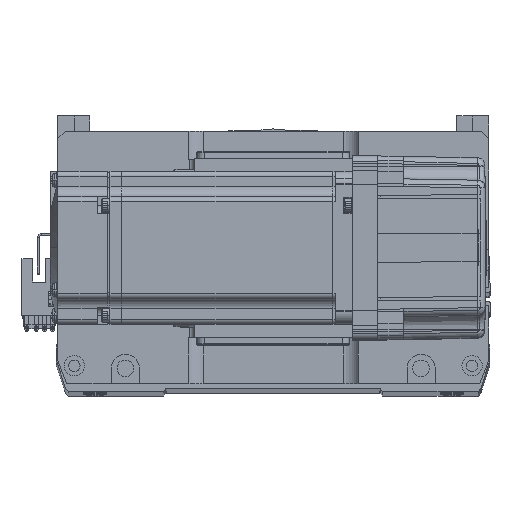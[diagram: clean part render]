
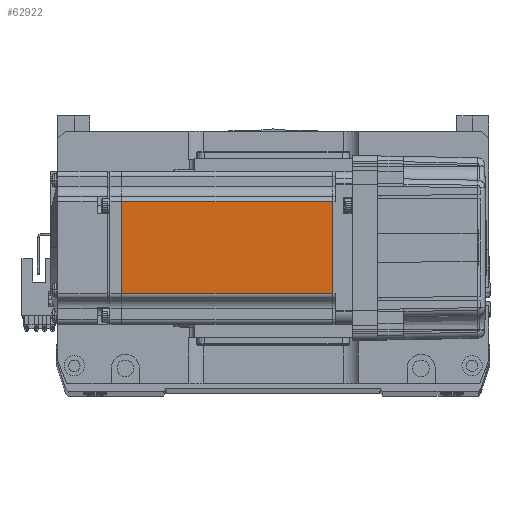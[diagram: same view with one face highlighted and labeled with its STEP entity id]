
A CAD part, top view. The second image highlights one B-rep face of the part: STEP entity #62922.
In plain terms, the highlighted planar face has unit normal (0, 0, 1).
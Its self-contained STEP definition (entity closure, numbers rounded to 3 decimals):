
#1497 = CARTESIAN_POINT ( 'NONE',  ( -90.45, -18., 30. ) ) ;
#3106 = LINE ( 'NONE', #44055, #33594 ) ;
#5351 = ORIENTED_EDGE ( 'NONE', *, *, #32370, .F. ) ;
#6844 = EDGE_LOOP ( 'NONE', ( #59893, #40250, #44568, #5351 ) ) ;
#7253 = CARTESIAN_POINT ( 'NONE',  ( -6.5, -18., 30. ) ) ;
#10676 = VECTOR ( 'NONE', #12168, 1000. ) ;
#11017 = VECTOR ( 'NONE', #47697, 1000. ) ;
#11173 = CARTESIAN_POINT ( 'NONE',  ( -7.75, -18., 30. ) ) ;
#12168 = DIRECTION ( 'NONE',  ( -1., 0., 0. ) ) ;
#13616 = VECTOR ( 'NONE', #27334, 1000. ) ;
#13746 = EDGE_CURVE ( 'NONE', #63074, #60245, #44548, .T. ) ;
#23215 = PLANE ( 'NONE',  #35660 ) ;
#27334 = DIRECTION ( 'NONE',  ( 0., -1., 0. ) ) ;
#28072 = DIRECTION ( 'NONE',  ( 1., 0., 0. ) ) ;
#29115 = DIRECTION ( 'NONE',  ( -1., 0., 0. ) ) ;
#31223 = LINE ( 'NONE', #7253, #10676 ) ;
#32332 = VERTEX_POINT ( 'NONE', #1497 ) ;
#32370 = EDGE_CURVE ( 'NONE', #60245, #32332, #31223, .T. ) ;
#33594 = VECTOR ( 'NONE', #29115, 1000. ) ;
#35660 = AXIS2_PLACEMENT_3D ( 'NONE', #62508, #57252, #28072 ) ;
#38375 = CARTESIAN_POINT ( 'NONE',  ( -90.45, 18., 30. ) ) ;
#39141 = CARTESIAN_POINT ( 'NONE',  ( -7.75, 18., 30. ) ) ;
#39489 = LINE ( 'NONE', #46732, #13616 ) ;
#40250 = ORIENTED_EDGE ( 'NONE', *, *, #42551, .T. ) ;
#40826 = FACE_OUTER_BOUND ( 'NONE', #6844, .T. ) ;
#41047 = VERTEX_POINT ( 'NONE', #38375 ) ;
#42551 = EDGE_CURVE ( 'NONE', #63074, #41047, #3106, .T. ) ;
#44055 = CARTESIAN_POINT ( 'NONE',  ( -6.5, 18., 30. ) ) ;
#44548 = LINE ( 'NONE', #57055, #11017 ) ;
#44568 = ORIENTED_EDGE ( 'NONE', *, *, #58218, .T. ) ;
#46732 = CARTESIAN_POINT ( 'NONE',  ( -90.45, 0., 30. ) ) ;
#47697 = DIRECTION ( 'NONE',  ( 0., -1., 0. ) ) ;
#57055 = CARTESIAN_POINT ( 'NONE',  ( -7.75, 0., 30. ) ) ;
#57252 = DIRECTION ( 'NONE',  ( 0., 0., 1. ) ) ;
#58218 = EDGE_CURVE ( 'NONE', #41047, #32332, #39489, .T. ) ;
#59893 = ORIENTED_EDGE ( 'NONE', *, *, #13746, .F. ) ;
#60245 = VERTEX_POINT ( 'NONE', #11173 ) ;
#62508 = CARTESIAN_POINT ( 'NONE',  ( -6.5, -25., 30. ) ) ;
#62922 = ADVANCED_FACE ( 'NONE', ( #40826 ), #23215, .T. ) ;
#63074 = VERTEX_POINT ( 'NONE', #39141 ) ;
